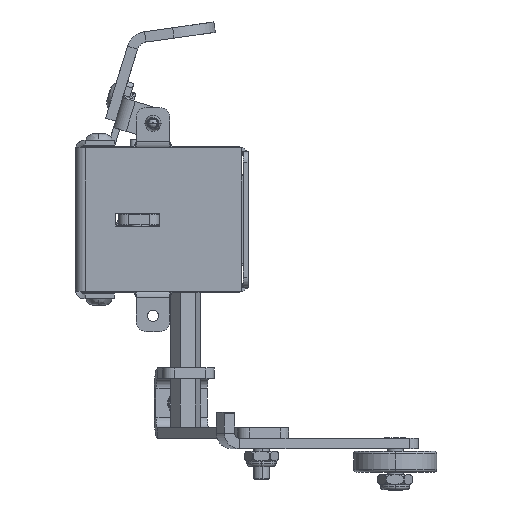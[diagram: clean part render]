
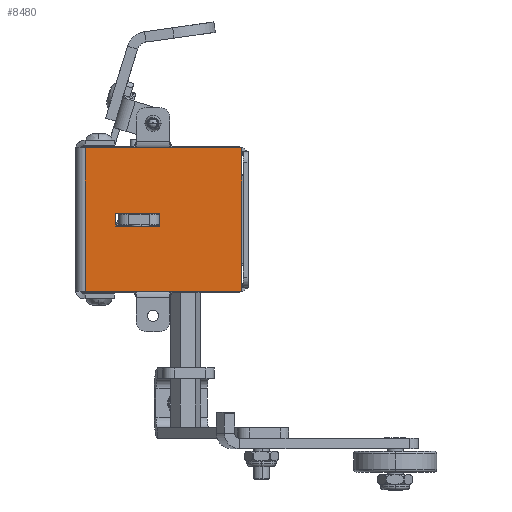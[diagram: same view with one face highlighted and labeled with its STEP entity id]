
A CAD part, left-side view. The second image highlights one B-rep face of the part: STEP entity #8480.
In plain terms, the highlighted planar face has unit normal (-1, 0, 0).
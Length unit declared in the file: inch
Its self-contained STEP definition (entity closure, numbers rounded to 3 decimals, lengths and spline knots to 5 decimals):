
#7487=DIRECTION('',(0.,0.,-1.));
#7488=VECTOR('',#7487,0.156);
#7489=CARTESIAN_POINT('',(0.,1.51563,-0.7815));
#7490=LINE('',#7489,#7488);
#7491=DIRECTION('',(0.,-1.,0.));
#7492=VECTOR('',#7491,0.53125);
#7493=CARTESIAN_POINT('',(0.,1.51563,-0.9375));
#7494=LINE('',#7493,#7492);
#7495=DIRECTION('',(0.,0.,1.));
#7496=VECTOR('',#7495,0.156);
#7497=CARTESIAN_POINT('',(0.,0.98438,-0.9375));
#7498=LINE('',#7497,#7496);
#7499=DIRECTION('',(0.,1.,0.));
#7500=VECTOR('',#7499,0.53125);
#7501=CARTESIAN_POINT('',(0.,0.98438,-0.7815));
#7502=LINE('',#7501,#7500);
#7503=DIRECTION('',(0.,-1.,0.));
#7504=VECTOR('',#7503,1.88);
#7505=CARTESIAN_POINT('',(0.,1.88,0.));
#7506=LINE('',#7505,#7504);
#7515=DIRECTION('',(0.,0.,-1.));
#7516=VECTOR('',#7515,1.719);
#7517=CARTESIAN_POINT('',(0.,1.88,0.));
#7518=LINE('',#7517,#7516);
#7549=DIRECTION('',(0.,-1.,0.));
#7550=VECTOR('',#7549,1.88);
#7551=CARTESIAN_POINT('',(0.,1.88,-1.719));
#7552=LINE('',#7551,#7550);
#7561=DIRECTION('',(0.,0.,-1.));
#7562=VECTOR('',#7561,1.719);
#7563=CARTESIAN_POINT('',(0.,0.,0.));
#7564=LINE('',#7563,#7562);
#8251=CARTESIAN_POINT('',(0.,1.88,0.));
#8252=CARTESIAN_POINT('',(0.,0.,0.));
#8253=VERTEX_POINT('',#8251);
#8254=VERTEX_POINT('',#8252);
#8259=CARTESIAN_POINT('',(0.,1.88,-1.719));
#8260=CARTESIAN_POINT('',(0.,0.,-1.719));
#8261=VERTEX_POINT('',#8259);
#8262=VERTEX_POINT('',#8260);
#8399=CARTESIAN_POINT('',(0.,1.51563,-0.7815));
#8400=CARTESIAN_POINT('',(0.,1.51563,-0.9375));
#8401=VERTEX_POINT('',#8399);
#8402=VERTEX_POINT('',#8400);
#8403=CARTESIAN_POINT('',(0.,0.98438,-0.9375));
#8404=VERTEX_POINT('',#8403);
#8405=CARTESIAN_POINT('',(0.,0.98438,-0.7815));
#8406=VERTEX_POINT('',#8405);
#8455=CARTESIAN_POINT('',(0.,2.,0.));
#8456=DIRECTION('',(-1.,0.,0.));
#8457=DIRECTION('',(0.,-1.,0.));
#8458=AXIS2_PLACEMENT_3D('',#8455,#8456,#8457);
#8459=PLANE('',#8458);
#8461=ORIENTED_EDGE('',*,*,#8460,.T.);
#8463=ORIENTED_EDGE('',*,*,#8462,.T.);
#8465=ORIENTED_EDGE('',*,*,#8464,.F.);
#8467=ORIENTED_EDGE('',*,*,#8466,.F.);
#8468=EDGE_LOOP('',(#8461,#8463,#8465,#8467));
#8469=FACE_OUTER_BOUND('',#8468,.F.);
#8471=ORIENTED_EDGE('',*,*,#8470,.T.);
#8473=ORIENTED_EDGE('',*,*,#8472,.T.);
#8475=ORIENTED_EDGE('',*,*,#8474,.T.);
#8477=ORIENTED_EDGE('',*,*,#8476,.T.);
#8478=EDGE_LOOP('',(#8471,#8473,#8475,#8477));
#8479=FACE_BOUND('',#8478,.F.);
#8480=ADVANCED_FACE('',(#8469,#8479),#8459,.T.);
#8460=EDGE_CURVE('',#8253,#8254,#7506,.T.);
#8462=EDGE_CURVE('',#8254,#8262,#7564,.T.);
#8464=EDGE_CURVE('',#8261,#8262,#7552,.T.);
#8466=EDGE_CURVE('',#8253,#8261,#7518,.T.);
#8470=EDGE_CURVE('',#8401,#8402,#7490,.T.);
#8472=EDGE_CURVE('',#8402,#8404,#7494,.T.);
#8474=EDGE_CURVE('',#8404,#8406,#7498,.T.);
#8476=EDGE_CURVE('',#8406,#8401,#7502,.T.);
